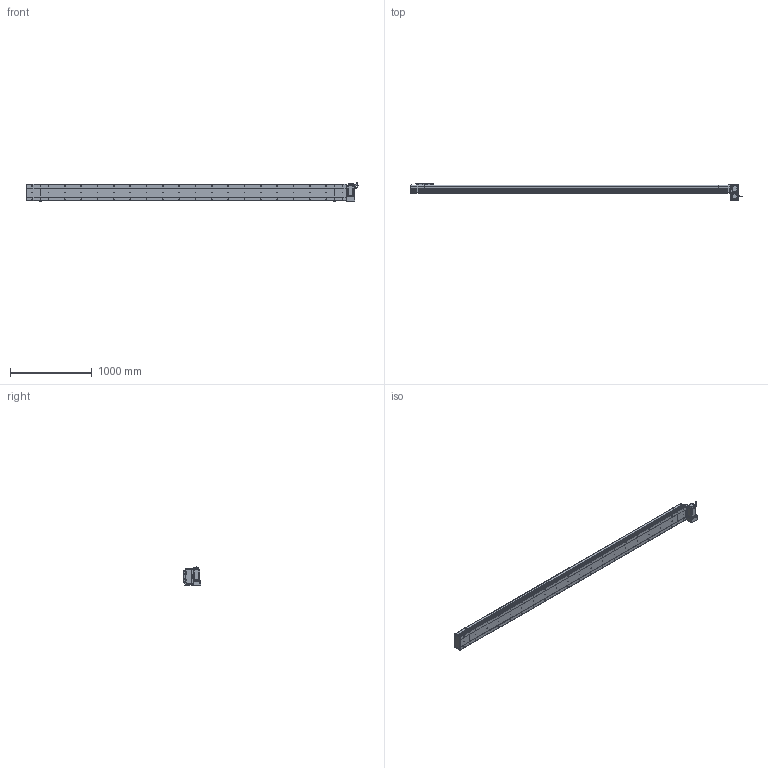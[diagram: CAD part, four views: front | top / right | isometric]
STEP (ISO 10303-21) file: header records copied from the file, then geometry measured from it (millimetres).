
FILE_DESCRIPTION (( 'STEP AP214' ), '1' );
FILE_NAME ('D20 CBH RU S3600.STEP', '2010-06-30T11:01:23', ( 'Conseil Régional Haute-Normandie' ), ( 'Conseil Régional Haute-Normandie' ), 'SwSTEP 2.0', 'SolidWorks 2010', '' );
FILE_SCHEMA (( 'AUTOMOTIVE_DESIGN' ));
Length unit declared in the file: millimetre
Products named in the file (31): Tail D20_Default; Chariot D20_Default; Glissiere_Default; Couvercle_Default; Corp D20 S3600_Default; Couvercle S3600_Default; vis M5 L47_Default; Corp S3600_Default; ecrou_Default; Plaque De Serrage D20_Default; vis M5 L15_Default; D20 CBH RU S3600; Support Chariot D20_Default; Support moteur RU_Default; Plaque de Bout Head D20 RU_Default; Head RU_Default; Plaque De Serrage D20 RU_Default; Couvercle RU_Default; Corp Tail D20 RU_Default; Moteur motionking 90BLDC125A-640; Rondelle Cache D20 RU_Default; Cache Support Moteur RU_Default; codeur 90BLDC125-640; corps 90BLDC125A-640; avant 90BLDC125A-640; vis M5 L30_Default; Conecteur_Default; Conecteur2_Default; Plaque de Bout Tail D20_Default; Corp Tail D20_Default
Assembly tree (66 placements, depth 4):
  D20 CBH RU S3600
    Chariot D20_Default
      vis M5 L15_Default  x8
      Glissiere_Default
      Chariot D20_Default
      Support Chariot D20_Default
    Head RU_Default
      vis M5 L30_Default  x4
      vis M5 L15_Default  x12
      Rondelle Cache D20 RU_Default  x3
      Plaque de Bout Head D20 RU_Default
      ecrou_Default  x4
      Moteur motionking 90BLDC125A-640
        Conecteur2_Default
        corps 90BLDC125A-640
        Conecteur_Default
        avant 90BLDC125A-640
        codeur 90BLDC125-640
      vis M5 L47_Default  x4
      Support moteur RU_Default
      Cache Support Moteur RU_Default
      Corp Tail D20 RU_Default
      Couvercle RU_Default
      Plaque De Serrage D20 RU_Default
    Corp D20 S3600_Default
      Couvercle S3600_Default
      Corp S3600_Default
    Tail D20_Default
      vis M5 L15_Default  x6
      Corp Tail D20_Default
      Plaque de Bout Tail D20_Default
      Plaque De Serrage D20_Default
      Couvercle_Default
Bounding box: 4064.45 x 209 x 229.7 mm (x, y, z)
Volume: 27031845 mm3; surface area: 5166525.6 mm2
Topology: 103 solids, 103 shells, 3841 faces, 9542 edges, 6202 vertices
Faces by surface type: plane 2120, bspline 806, cylinder 752, torus 91, cone 68, sphere 4
Entity records: 161326 total; most frequent: CARTESIAN_POINT 82623, ORIENTED_EDGE 15552, DIRECTION 11994, EDGE_CURVE 7776, VERTEX_POINT 5146, VECTOR 4984, LINE 4984, AXIS2_PLACEMENT_3D 3505
